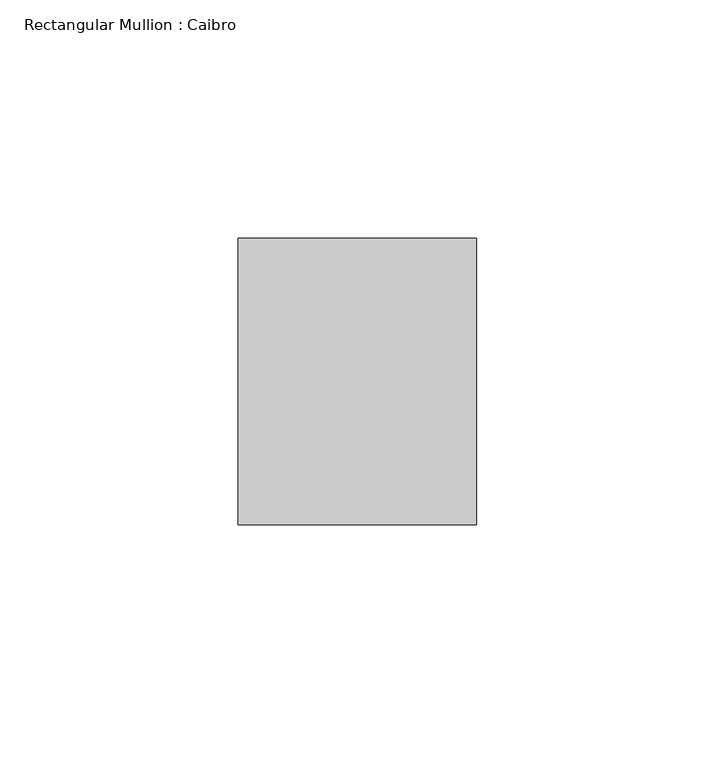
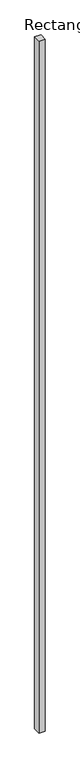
"""IFC4 building model written with IfcOpenShell, lengths in millimetres: member geometry, Rectangular Mullion : Caibro."""

from ifc_helpers import new_model, si_unit, frame, origin, place, context, project, spatial, polyline, outline, extrude, source, transform, mapped, element, save


def rectangular_mullion_caibro_00c653ff(model_context):
    return source(origin(), model_context, "Body", "SweptSolid", [
        extrude(outline(polyline([(-25.0, -60.0), (-25.0, 0.0), (25.0, 0.0), (25.0, -60.0), (-25.0, -60.0)])), frame((0.0, 0.0, -5952.2956296), z_axis=(0.0, 0.0, 1.0), x_axis=(1.0, 0.0, 0.0)), (0.0, 0.0, 1.0), 5952.2956296),
    ])


if __name__ == "__main__":
    model = new_model("IFC4")
    model_context = context("Model", 3, world=origin())
    ifc_project = project(units=[si_unit("LENGTHUNIT", "METRE", prefix="MILLI")], contexts=[model_context])
    site = spatial("IfcSite", under=ifc_project)
    building = spatial("IfcBuilding", under=site)
    placement = place(None, origin())
    rectangular_mullion_caibro_shape = rectangular_mullion_caibro_00c653ff(model_context)
    element("IfcMember", 1, ObjectType="Rectangular Mullion : Caibro", at=placement, inside=building, context=model_context, shape_type="MappedRepresentation", body=[
        mapped(rectangular_mullion_caibro_shape, transform((0.0, 0.0, 0.0), x_axis=(1.0, 0.0, 0.0), y_axis=(0.0, 1.0, 0.0), z_axis=(0.0, 0.0, 1.0))),
    ])
    save(model, "model.ifc")
